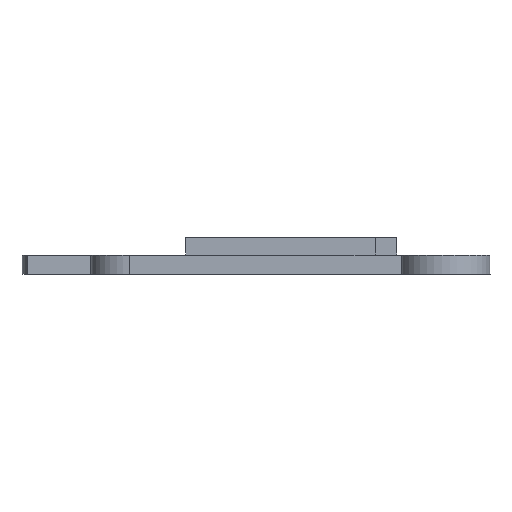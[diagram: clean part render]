
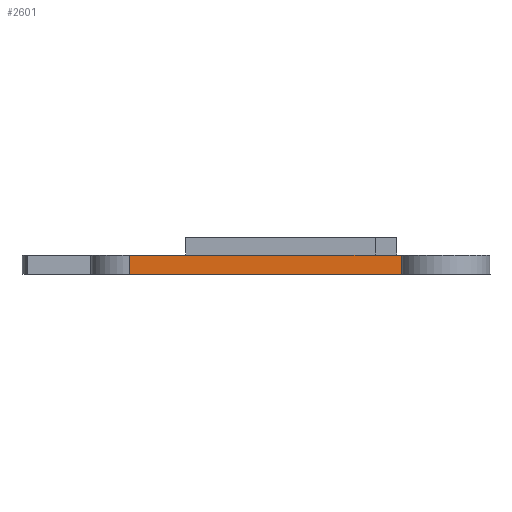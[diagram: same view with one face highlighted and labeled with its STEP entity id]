
A CAD part, left-side view. The second image highlights one B-rep face of the part: STEP entity #2601.
In plain terms, the highlighted planar face has unit normal (-1, 0, 0).
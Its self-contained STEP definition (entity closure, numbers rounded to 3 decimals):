
#49 = PLANE('',#50);
#50 = AXIS2_PLACEMENT_3D('',#51,#52,#53);
#51 = CARTESIAN_POINT('',(-36.5,-17.5,46.));
#52 = DIRECTION('',(0.,0.,1.));
#53 = DIRECTION('',(1.,0.,0.));
#80 = VERTEX_POINT('',#81);
#81 = CARTESIAN_POINT('',(-36.5,-12.427,46.));
#98 = CYLINDRICAL_SURFACE('',#99,4.6);
#99 = AXIS2_PLACEMENT_3D('',#100,#101,#102);
#100 = CARTESIAN_POINT('',(-36.,-17.,44.));
#101 = DIRECTION('',(0.,0.,1.));
#102 = DIRECTION('',(1.,0.,-0.));
#561 = VERTEX_POINT('',#562);
#562 = CARTESIAN_POINT('',(-36.5,15.5,46.));
#581 = CYLINDRICAL_SURFACE('',#582,4.);
#582 = AXIS2_PLACEMENT_3D('',#583,#584,#585);
#583 = CARTESIAN_POINT('',(-32.5,15.5,44.));
#584 = DIRECTION('',(0.,0.,1.));
#585 = DIRECTION('',(-1.,-0.,0.));
#593 = EDGE_CURVE('',#80,#561,#594,.T.);
#594 = SURFACE_CURVE('',#595,(#599,#606),.PCURVE_S1.);
#595 = LINE('',#596,#597);
#596 = CARTESIAN_POINT('',(-36.5,-17.5,46.));
#597 = VECTOR('',#598,1.);
#598 = DIRECTION('',(0.,1.,0.));
#599 = PCURVE('',#49,#600);
#600 = DEFINITIONAL_REPRESENTATION('',(#601),#605);
#601 = LINE('',#602,#603);
#602 = CARTESIAN_POINT('',(0.,0.));
#603 = VECTOR('',#604,1.);
#604 = DIRECTION('',(0.,1.));
#605 = ( GEOMETRIC_REPRESENTATION_CONTEXT(2) 
PARAMETRIC_REPRESENTATION_CONTEXT() REPRESENTATION_CONTEXT('2D SPACE',''
  ) );
#606 = PCURVE('',#607,#612);
#607 = PLANE('',#608);
#608 = AXIS2_PLACEMENT_3D('',#609,#610,#611);
#609 = CARTESIAN_POINT('',(-36.5,-17.5,44.));
#610 = DIRECTION('',(1.,0.,0.));
#611 = DIRECTION('',(0.,0.,1.));
#612 = DEFINITIONAL_REPRESENTATION('',(#613),#617);
#613 = LINE('',#614,#615);
#614 = CARTESIAN_POINT('',(2.,0.));
#615 = VECTOR('',#616,1.);
#616 = DIRECTION('',(0.,-1.));
#617 = ( GEOMETRIC_REPRESENTATION_CONTEXT(2) 
PARAMETRIC_REPRESENTATION_CONTEXT() REPRESENTATION_CONTEXT('2D SPACE',''
  ) );
#2517 = PLANE('',#2518);
#2518 = AXIS2_PLACEMENT_3D('',#2519,#2520,#2521);
#2519 = CARTESIAN_POINT('',(-36.5,-17.5,44.));
#2520 = DIRECTION('',(0.,0.,1.));
#2521 = DIRECTION('',(1.,0.,0.));
#2538 = EDGE_CURVE('',#2539,#80,#2541,.T.);
#2539 = VERTEX_POINT('',#2540);
#2540 = CARTESIAN_POINT('',(-36.5,-12.427,44.));
#2541 = SURFACE_CURVE('',#2542,(#2546,#2552),.PCURVE_S1.);
#2542 = LINE('',#2543,#2544);
#2543 = CARTESIAN_POINT('',(-36.5,-12.427,44.));
#2544 = VECTOR('',#2545,1.);
#2545 = DIRECTION('',(0.,0.,1.));
#2546 = PCURVE('',#98,#2547);
#2547 = DEFINITIONAL_REPRESENTATION('',(#2548),#2551);
#2548 = B_SPLINE_CURVE_WITH_KNOTS('',1,(#2549,#2550),.UNSPECIFIED.,.F.,
  .F.,(2,2),(0.,2.),.PIECEWISE_BEZIER_KNOTS.);
#2549 = CARTESIAN_POINT('',(1.68,0.));
#2550 = CARTESIAN_POINT('',(1.68,2.));
#2551 = ( GEOMETRIC_REPRESENTATION_CONTEXT(2) 
PARAMETRIC_REPRESENTATION_CONTEXT() REPRESENTATION_CONTEXT('2D SPACE',''
  ) );
#2552 = PCURVE('',#607,#2553);
#2553 = DEFINITIONAL_REPRESENTATION('',(#2554),#2557);
#2554 = B_SPLINE_CURVE_WITH_KNOTS('',1,(#2555,#2556),.UNSPECIFIED.,.F.,
  .F.,(2,2),(0.,2.),.PIECEWISE_BEZIER_KNOTS.);
#2555 = CARTESIAN_POINT('',(0.,-5.073));
#2556 = CARTESIAN_POINT('',(2.,-5.073));
#2557 = ( GEOMETRIC_REPRESENTATION_CONTEXT(2) 
PARAMETRIC_REPRESENTATION_CONTEXT() REPRESENTATION_CONTEXT('2D SPACE',''
  ) );
#2601 = ADVANCED_FACE('',(#2602),#607,.F.);
#2602 = FACE_BOUND('',#2603,.F.);
#2603 = EDGE_LOOP('',(#2604,#2605,#2606,#2629));
#2604 = ORIENTED_EDGE('',*,*,#593,.F.);
#2605 = ORIENTED_EDGE('',*,*,#2538,.F.);
#2606 = ORIENTED_EDGE('',*,*,#2607,.T.);
#2607 = EDGE_CURVE('',#2539,#2608,#2610,.T.);
#2608 = VERTEX_POINT('',#2609);
#2609 = CARTESIAN_POINT('',(-36.5,15.5,44.));
#2610 = SURFACE_CURVE('',#2611,(#2615,#2622),.PCURVE_S1.);
#2611 = LINE('',#2612,#2613);
#2612 = CARTESIAN_POINT('',(-36.5,-17.5,44.));
#2613 = VECTOR('',#2614,1.);
#2614 = DIRECTION('',(0.,1.,0.));
#2615 = PCURVE('',#607,#2616);
#2616 = DEFINITIONAL_REPRESENTATION('',(#2617),#2621);
#2617 = LINE('',#2618,#2619);
#2618 = CARTESIAN_POINT('',(0.,0.));
#2619 = VECTOR('',#2620,1.);
#2620 = DIRECTION('',(0.,-1.));
#2621 = ( GEOMETRIC_REPRESENTATION_CONTEXT(2) 
PARAMETRIC_REPRESENTATION_CONTEXT() REPRESENTATION_CONTEXT('2D SPACE',''
  ) );
#2622 = PCURVE('',#2517,#2623);
#2623 = DEFINITIONAL_REPRESENTATION('',(#2624),#2628);
#2624 = LINE('',#2625,#2626);
#2625 = CARTESIAN_POINT('',(0.,0.));
#2626 = VECTOR('',#2627,1.);
#2627 = DIRECTION('',(0.,1.));
#2628 = ( GEOMETRIC_REPRESENTATION_CONTEXT(2) 
PARAMETRIC_REPRESENTATION_CONTEXT() REPRESENTATION_CONTEXT('2D SPACE',''
  ) );
#2629 = ORIENTED_EDGE('',*,*,#2630,.T.);
#2630 = EDGE_CURVE('',#2608,#561,#2631,.T.);
#2631 = SURFACE_CURVE('',#2632,(#2636,#2643),.PCURVE_S1.);
#2632 = LINE('',#2633,#2634);
#2633 = CARTESIAN_POINT('',(-36.5,15.5,44.));
#2634 = VECTOR('',#2635,1.);
#2635 = DIRECTION('',(0.,0.,1.));
#2636 = PCURVE('',#607,#2637);
#2637 = DEFINITIONAL_REPRESENTATION('',(#2638),#2642);
#2638 = LINE('',#2639,#2640);
#2639 = CARTESIAN_POINT('',(0.,-33.));
#2640 = VECTOR('',#2641,1.);
#2641 = DIRECTION('',(1.,0.));
#2642 = ( GEOMETRIC_REPRESENTATION_CONTEXT(2) 
PARAMETRIC_REPRESENTATION_CONTEXT() REPRESENTATION_CONTEXT('2D SPACE',''
  ) );
#2643 = PCURVE('',#581,#2644);
#2644 = DEFINITIONAL_REPRESENTATION('',(#2645),#2649);
#2645 = LINE('',#2646,#2647);
#2646 = CARTESIAN_POINT('',(-0.,0.));
#2647 = VECTOR('',#2648,1.);
#2648 = DIRECTION('',(-0.,1.));
#2649 = ( GEOMETRIC_REPRESENTATION_CONTEXT(2) 
PARAMETRIC_REPRESENTATION_CONTEXT() REPRESENTATION_CONTEXT('2D SPACE',''
  ) );
